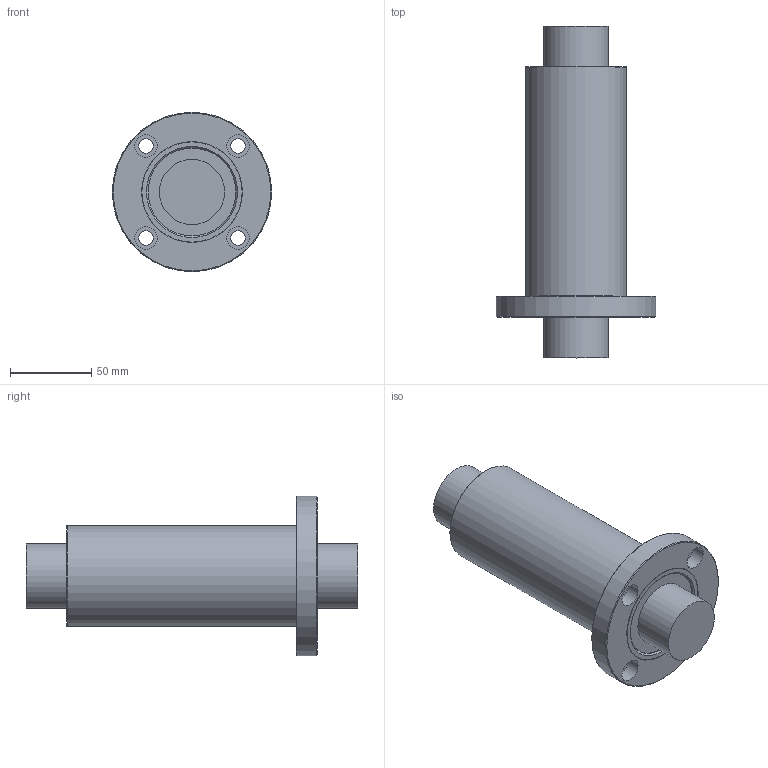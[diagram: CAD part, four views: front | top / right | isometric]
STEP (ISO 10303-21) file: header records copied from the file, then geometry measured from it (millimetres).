
FILE_DESCRIPTION((''),'2;1');
FILE_NAME('D:\STEP\EUROPE\BLANK\LMEF L\LMEF40L.stp','2013-02-05T17:59:15',('user2'),(''),'Autodesk Inventor 2012','Autodesk Inventor 2012','');
FILE_SCHEMA(('AUTOMOTIVE_DESIGN { 1 0 10303 214 1 1 1 1 }'));
Length unit declared in the file: millimetre
Products named in the file (1): LMEF40L
Bounding box: 98 x 204 x 98 mm (x, y, z)
Volume: 576811.7 mm3; surface area: 54890.2 mm2
Topology: 1 solids, 1 shells, 33 faces, 59 edges, 38 vertices
Faces by surface type: cylinder 15, plane 12, cone 4, torus 2
Full cylindrical faces by diameter (mm): 9 x4, 14 x4, 40 x2, 54 x2, 62 x2, 98 x1
Entity records: 736 total; most frequent: DIRECTION 140, CARTESIAN_POINT 106, ORIENTED_EDGE 72, EDGE_LOOP 72, AXIS2_PLACEMENT_3D 70, FACE_BOUND 39, VERTEX_POINT 36, CIRCLE 36
